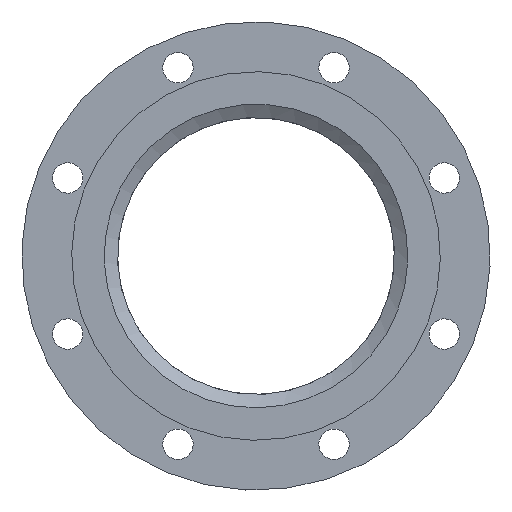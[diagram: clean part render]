
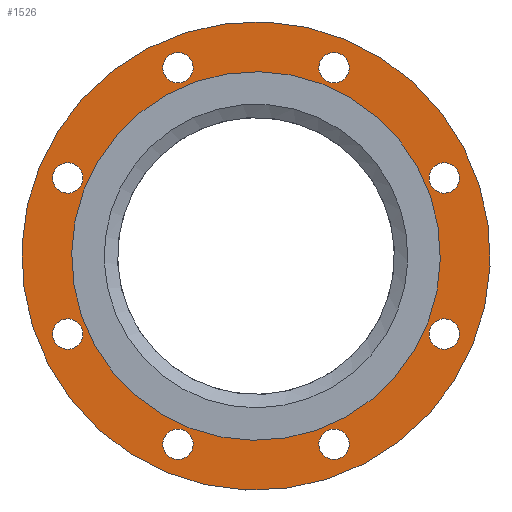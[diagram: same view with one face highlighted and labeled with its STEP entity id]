
A CAD part, front view. The second image highlights one B-rep face of the part: STEP entity #1526.
In plain terms, the highlighted planar face has unit normal (0, -1, 0).
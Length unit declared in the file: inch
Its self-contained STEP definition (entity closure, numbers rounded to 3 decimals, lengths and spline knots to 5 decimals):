
#62=PLANE('',#1674);
#140=FACE_BOUND('',#433,.T.);
#141=FACE_BOUND('',#434,.T.);
#142=FACE_BOUND('',#435,.T.);
#143=FACE_BOUND('',#436,.T.);
#144=FACE_BOUND('',#437,.T.);
#145=FACE_BOUND('',#438,.T.);
#146=FACE_BOUND('',#439,.T.);
#147=FACE_BOUND('',#440,.T.);
#148=FACE_BOUND('',#441,.T.);
#279=FACE_OUTER_BOUND('',#432,.T.);
#432=EDGE_LOOP('',(#1127));
#433=EDGE_LOOP('',(#1128));
#434=EDGE_LOOP('',(#1129));
#435=EDGE_LOOP('',(#1130));
#436=EDGE_LOOP('',(#1131));
#437=EDGE_LOOP('',(#1132));
#438=EDGE_LOOP('',(#1133));
#439=EDGE_LOOP('',(#1134));
#440=EDGE_LOOP('',(#1135));
#441=EDGE_LOOP('',(#1136));
#689=CIRCLE('',#1675,6.75);
#690=CIRCLE('',#1676,0.4375);
#691=CIRCLE('',#1677,0.4375);
#692=CIRCLE('',#1678,0.4375);
#693=CIRCLE('',#1679,0.4375);
#694=CIRCLE('',#1680,0.4375);
#695=CIRCLE('',#1681,0.4375);
#696=CIRCLE('',#1682,0.4375);
#697=CIRCLE('',#1683,0.4375);
#698=CIRCLE('',#1684,5.3125);
#828=VERTEX_POINT('',#2487);
#829=VERTEX_POINT('',#2489);
#830=VERTEX_POINT('',#2491);
#831=VERTEX_POINT('',#2493);
#832=VERTEX_POINT('',#2495);
#833=VERTEX_POINT('',#2497);
#834=VERTEX_POINT('',#2499);
#835=VERTEX_POINT('',#2501);
#836=VERTEX_POINT('',#2503);
#837=VERTEX_POINT('',#2505);
#967=EDGE_CURVE('',#828,#828,#689,.T.);
#968=EDGE_CURVE('',#829,#829,#690,.T.);
#969=EDGE_CURVE('',#830,#830,#691,.T.);
#970=EDGE_CURVE('',#831,#831,#692,.T.);
#971=EDGE_CURVE('',#832,#832,#693,.T.);
#972=EDGE_CURVE('',#833,#833,#694,.T.);
#973=EDGE_CURVE('',#834,#834,#695,.T.);
#974=EDGE_CURVE('',#835,#835,#696,.T.);
#975=EDGE_CURVE('',#836,#836,#697,.T.);
#976=EDGE_CURVE('',#837,#837,#698,.T.);
#1127=ORIENTED_EDGE('',*,*,#967,.T.);
#1128=ORIENTED_EDGE('',*,*,#968,.T.);
#1129=ORIENTED_EDGE('',*,*,#969,.T.);
#1130=ORIENTED_EDGE('',*,*,#970,.T.);
#1131=ORIENTED_EDGE('',*,*,#971,.T.);
#1132=ORIENTED_EDGE('',*,*,#972,.T.);
#1133=ORIENTED_EDGE('',*,*,#973,.T.);
#1134=ORIENTED_EDGE('',*,*,#974,.T.);
#1135=ORIENTED_EDGE('',*,*,#975,.T.);
#1136=ORIENTED_EDGE('',*,*,#976,.F.);
#1526=ADVANCED_FACE('',(#279,#140,#141,#142,#143,#144,#145,#146,#147,#148),
#62,.T.);
#1674=AXIS2_PLACEMENT_3D('',#2486,#1975,#1976);
#1675=AXIS2_PLACEMENT_3D('',#2488,#1977,#1978);
#1676=AXIS2_PLACEMENT_3D('',#2490,#1979,#1980);
#1677=AXIS2_PLACEMENT_3D('',#2492,#1981,#1982);
#1678=AXIS2_PLACEMENT_3D('',#2494,#1983,#1984);
#1679=AXIS2_PLACEMENT_3D('',#2496,#1985,#1986);
#1680=AXIS2_PLACEMENT_3D('',#2498,#1987,#1988);
#1681=AXIS2_PLACEMENT_3D('',#2500,#1989,#1990);
#1682=AXIS2_PLACEMENT_3D('',#2502,#1991,#1992);
#1683=AXIS2_PLACEMENT_3D('',#2504,#1993,#1994);
#1684=AXIS2_PLACEMENT_3D('',#2506,#1995,#1996);
#1975=DIRECTION('center_axis',(0.,-1.,0.));
#1976=DIRECTION('ref_axis',(-0.924,0.,0.383));
#1977=DIRECTION('center_axis',(0.,-1.,0.));
#1978=DIRECTION('ref_axis',(-0.924,0.,0.383));
#1979=DIRECTION('center_axis',(0.,1.,0.));
#1980=DIRECTION('ref_axis',(-0.924,0.,-0.383));
#1981=DIRECTION('center_axis',(0.,1.,0.));
#1982=DIRECTION('ref_axis',(-0.383,0.,-0.924));
#1983=DIRECTION('center_axis',(0.,1.,0.));
#1984=DIRECTION('ref_axis',(0.383,0.,-0.924));
#1985=DIRECTION('center_axis',(0.,1.,0.));
#1986=DIRECTION('ref_axis',(0.924,0.,-0.383));
#1987=DIRECTION('center_axis',(0.,1.,0.));
#1988=DIRECTION('ref_axis',(0.924,0.,0.383));
#1989=DIRECTION('center_axis',(0.,1.,0.));
#1990=DIRECTION('ref_axis',(0.383,0.,0.924));
#1991=DIRECTION('center_axis',(0.,1.,0.));
#1992=DIRECTION('ref_axis',(-0.383,0.,0.924));
#1993=DIRECTION('center_axis',(0.,1.,0.));
#1994=DIRECTION('ref_axis',(-0.924,0.,0.383));
#1995=DIRECTION('center_axis',(0.,-1.,0.));
#1996=DIRECTION('ref_axis',(-0.857,0.,0.515));
#2486=CARTESIAN_POINT('Origin',(0.,0.5,
0.));
#2487=CARTESIAN_POINT('',(6.23619,0.5,-2.58311));
#2488=CARTESIAN_POINT('Origin',(0.,0.5,
0.));
#2489=CARTESIAN_POINT('',(1.84407,0.5,-5.59522));
#2490=CARTESIAN_POINT('Origin',(2.24827,0.5,-5.42779));
#2491=CARTESIAN_POINT('',(5.26037,0.5,-2.65246));
#2492=CARTESIAN_POINT('Origin',(5.42779,0.5,-2.24827));
#2493=CARTESIAN_POINT('',(5.59522,0.5,1.84407));
#2494=CARTESIAN_POINT('Origin',(5.42779,0.5,2.24827));
#2495=CARTESIAN_POINT('',(2.65246,0.5,5.26037));
#2496=CARTESIAN_POINT('Origin',(2.24827,0.5,5.42779));
#2497=CARTESIAN_POINT('',(-1.84407,0.5,5.59522));
#2498=CARTESIAN_POINT('Origin',(-2.24827,0.5,5.42779));
#2499=CARTESIAN_POINT('',(-5.26037,0.5,2.65246));
#2500=CARTESIAN_POINT('Origin',(-5.42779,0.5,2.24827));
#2501=CARTESIAN_POINT('',(-5.59522,0.5,-1.84407));
#2502=CARTESIAN_POINT('Origin',(-5.42779,0.5,-2.24827));
#2503=CARTESIAN_POINT('',(-2.65246,0.5,-5.26037));
#2504=CARTESIAN_POINT('Origin',(-2.24827,0.5,-5.42779));
#2505=CARTESIAN_POINT('',(4.55512,0.5,-2.73378));
#2506=CARTESIAN_POINT('Origin',(0.,0.5,0.));
